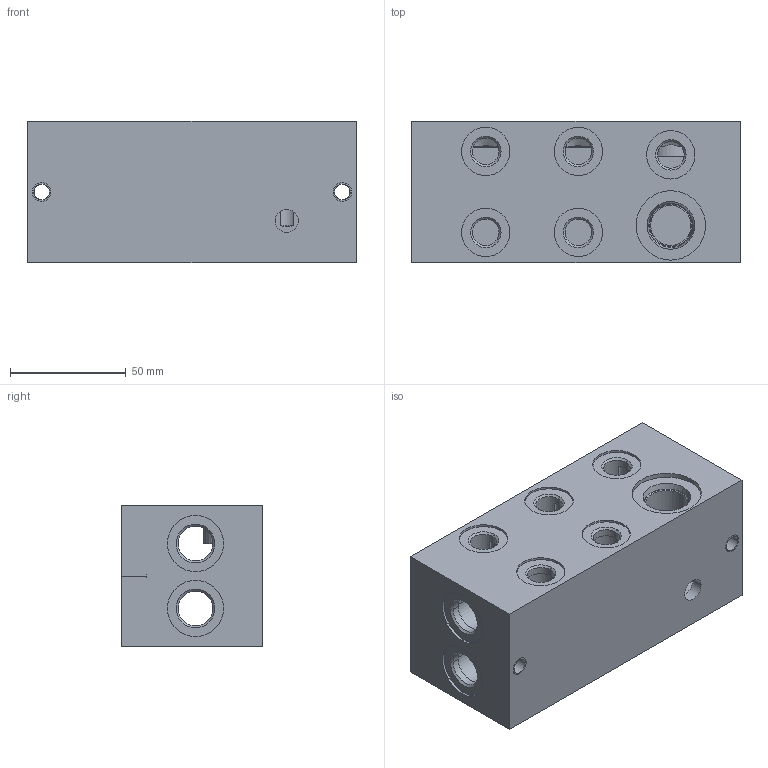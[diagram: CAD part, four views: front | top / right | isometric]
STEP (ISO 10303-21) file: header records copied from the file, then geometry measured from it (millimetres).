
FILE_DESCRIPTION((''),'2;1');
FILE_NAME('760_7020','2015-11-27T',('Ahcz.brigadnik05'),(''),'PRO/ENGINEER BY PARAMETRIC TECHNOLOGY CORPORATION, 2015110','PRO/ENGINEER BY PARAMETRIC TECHNOLOGY CORPORATION, 2015110','');
FILE_SCHEMA(('AUTOMOTIVE_DESIGN { 1 0 10303 214 1 1 1 1 }'));
Length unit declared in the file: millimetre
Products named in the file (1): 760_7020
Bounding box: 142 x 61 x 61 mm (x, y, z)
Volume: 201951.5 mm3; surface area: 85734.2 mm2
Topology: 1 solids, 26 shells, 247 faces, 1199 edges, 1078 vertices
Faces by surface type: cylinder 152, plane 54, cone 41
Entity records: 13291 total; most frequent: CARTESIAN_POINT 2613, DIRECTION 2029, ORIENTED_EDGE 1274, VECTOR 761, LINE 761, EDGE_CURVE 687, AXIS2_PLACEMENT_3D 634, TRIMMED_CURVE 507
